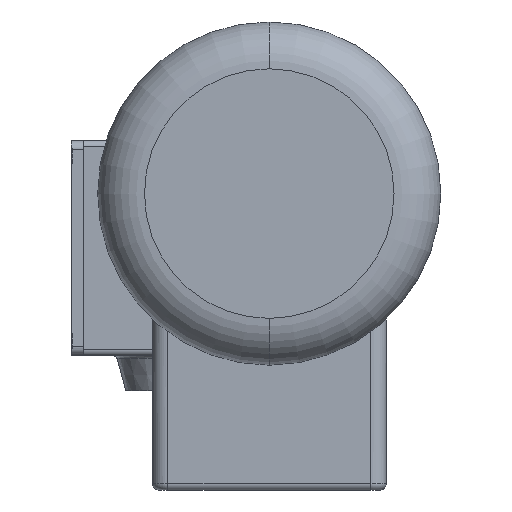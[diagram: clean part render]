
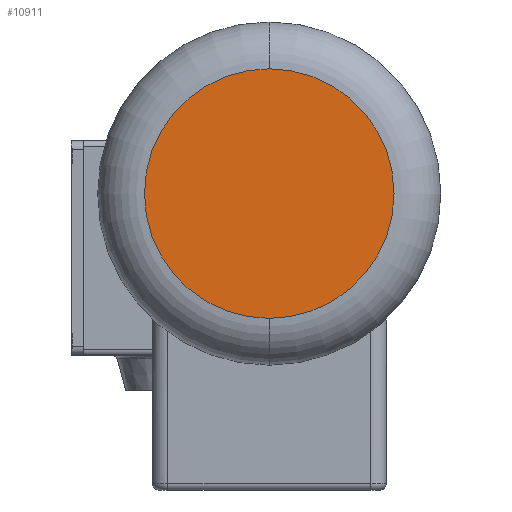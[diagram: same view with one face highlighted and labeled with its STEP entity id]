
A CAD part, left-side view. The second image highlights one B-rep face of the part: STEP entity #10911.
In plain terms, the highlighted planar face has unit normal (-1, 0, 0).
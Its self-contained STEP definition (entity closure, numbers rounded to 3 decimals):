
#177 = ORIENTED_EDGE ( 'NONE', *, *, #1082, .T. ) ;
#373 = CARTESIAN_POINT ( 'NONE',  ( 0., 0., 40. ) ) ;
#1082 = EDGE_CURVE ( 'NONE', #13904, #3645, #8451, .T. ) ;
#1397 = CIRCLE ( 'NONE', #5311, 40. ) ;
#2460 = FACE_OUTER_BOUND ( 'NONE', #3692, .T. ) ;
#3547 = PLANE ( 'NONE',  #13055 ) ;
#3645 = VERTEX_POINT ( 'NONE', #373 ) ;
#3692 = EDGE_LOOP ( 'NONE', ( #177, #4322 ) ) ;
#4322 = ORIENTED_EDGE ( 'NONE', *, *, #6331, .T. ) ;
#5311 = AXIS2_PLACEMENT_3D ( 'NONE', #13535, #13450, #9026 ) ;
#6331 = EDGE_CURVE ( 'NONE', #3645, #13904, #1397, .T. ) ;
#6987 = CARTESIAN_POINT ( 'NONE',  ( 0., 0., 0. ) ) ;
#7914 = CARTESIAN_POINT ( 'NONE',  ( 0., 0., -40. ) ) ;
#7994 = DIRECTION ( 'NONE',  ( 0., 0., -1. ) ) ;
#8297 = CARTESIAN_POINT ( 'NONE',  ( 0., 0., 0. ) ) ;
#8451 = CIRCLE ( 'NONE', #10998, 40. ) ;
#9026 = DIRECTION ( 'NONE',  ( 0., 0., -1. ) ) ;
#10911 = ADVANCED_FACE ( 'NONE', ( #2460 ), #3547, .F. ) ;
#10998 = AXIS2_PLACEMENT_3D ( 'NONE', #8297, #13669, #12451 ) ;
#11299 = DIRECTION ( 'NONE',  ( 1., 0., 0. ) ) ;
#12451 = DIRECTION ( 'NONE',  ( 0., 0., -1. ) ) ;
#13055 = AXIS2_PLACEMENT_3D ( 'NONE', #6987, #11299, #7994 ) ;
#13450 = DIRECTION ( 'NONE',  ( -1., 0., 0. ) ) ;
#13535 = CARTESIAN_POINT ( 'NONE',  ( 0., 0., 0. ) ) ;
#13669 = DIRECTION ( 'NONE',  ( -1., 0., 0. ) ) ;
#13904 = VERTEX_POINT ( 'NONE', #7914 ) ;
